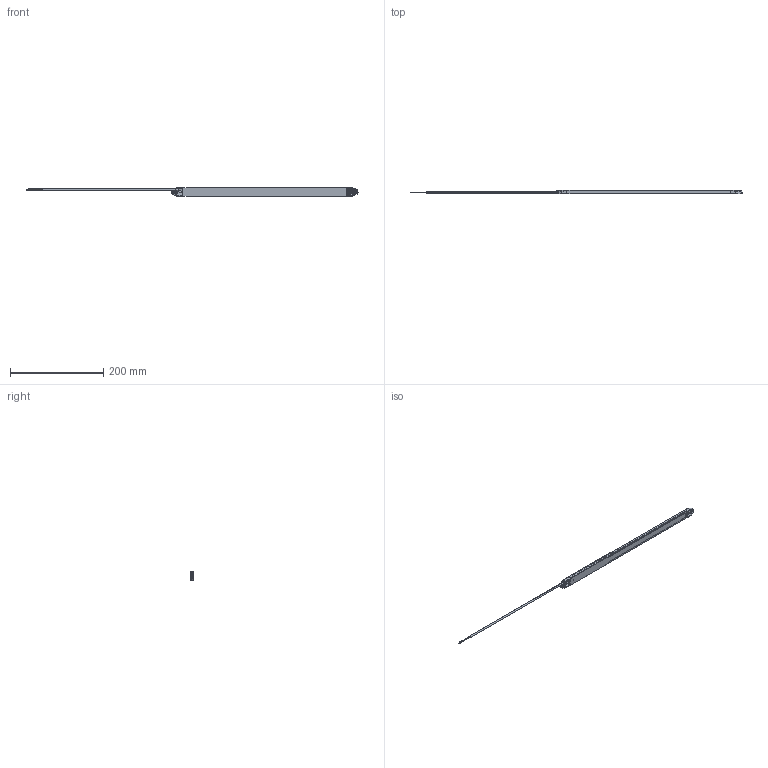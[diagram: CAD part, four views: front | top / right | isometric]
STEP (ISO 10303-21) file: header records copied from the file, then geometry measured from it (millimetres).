
FILE_DESCRIPTION (( 'STEP AP203' ), '1' );
FILE_NAME ('LAP400.STEP', '2021-12-20T08:09:48', ( '' ), ( '' ), 'SwSTEP 2.0', 'SolidWorks 2018', '' );
FILE_SCHEMA (( 'CONFIG_CONTROL_DESIGN' ));
Length unit declared in the file: millimetre
Products named in the file (8): 63202280_2.9mmX13mm; LAP400; 63202366; 63202365; 63202150; 63202151; 63202152; 63202157_Default.
Assembly tree (9 placements, depth 2):
  LAP400
    63202366
    63202365
    63202150
    63202151
    63202152  x2
    63202157_Default.
    63202280_2.9mmX13mm  x2
Bounding box: 711.41 x 8.4 x 17.84 mm (x, y, z)
Volume: 27455.8 mm3; surface area: 47140 mm2
Topology: 16 solids, 16 shells, 430 faces, 1085 edges, 704 vertices
Faces by surface type: cylinder 142, plane 130, bspline 114, torus 24, cone 16, sphere 4
Entity records: 24695 total; most frequent: CARTESIAN_POINT 15365, ORIENTED_EDGE 1832, DIRECTION 1660, EDGE_CURVE 916, AXIS2_PLACEMENT_3D 626, VERTEX_POINT 596, LINE 408, VECTOR 408
